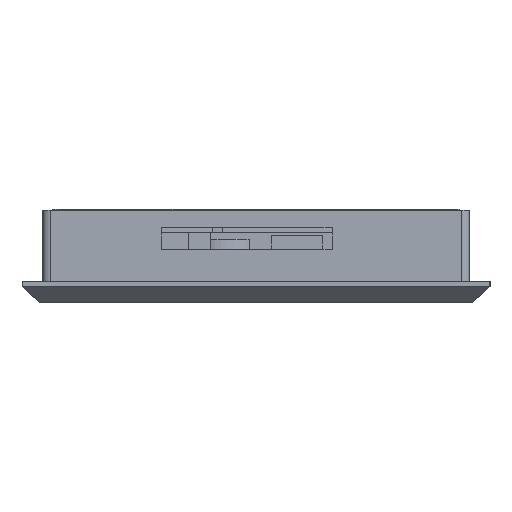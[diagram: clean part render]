
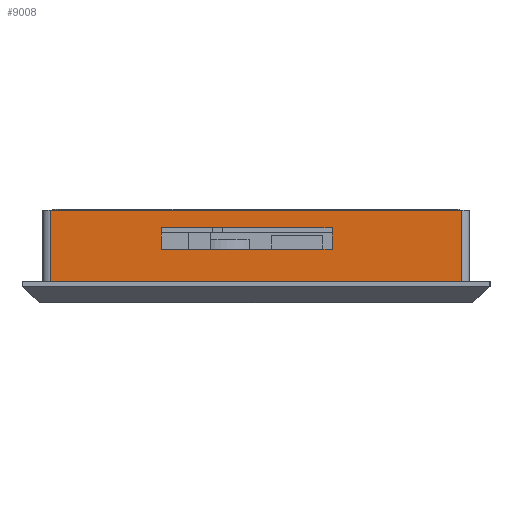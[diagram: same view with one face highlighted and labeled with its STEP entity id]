
A CAD part, left-side view. The second image highlights one B-rep face of the part: STEP entity #9008.
In plain terms, the highlighted planar face has unit normal (-1, 0, 0).
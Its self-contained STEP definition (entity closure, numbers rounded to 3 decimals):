
#9008=ADVANCED_FACE('',(#13447,#13448),#11344,.T.);
#11344=PLANE('',#45564);
#13447=FACE_BOUND('',#13846,.T.);
#13448=FACE_BOUND('',#13847,.T.);
#13846=EDGE_LOOP('',(#17167,#17168,#17169,#17170));
#13847=EDGE_LOOP('',(#17171,#17172,#17173,#17174));
#17167=ORIENTED_EDGE('',*,*,#30941,.F.);
#17168=ORIENTED_EDGE('',*,*,#30942,.F.);
#17169=ORIENTED_EDGE('',*,*,#30936,.T.);
#17170=ORIENTED_EDGE('',*,*,#30939,.F.);
#17171=ORIENTED_EDGE('',*,*,#30972,.T.);
#17172=ORIENTED_EDGE('',*,*,#30839,.T.);
#17173=ORIENTED_EDGE('',*,*,#30974,.T.);
#17174=ORIENTED_EDGE('',*,*,#30975,.F.);
#27322=VERTEX_POINT('',#58718);
#27323=VERTEX_POINT('',#58720);
#27387=VERTEX_POINT('',#58912);
#27388=VERTEX_POINT('',#58914);
#27389=VERTEX_POINT('',#58918);
#27390=VERTEX_POINT('',#58922);
#27414=VERTEX_POINT('',#58988);
#27415=VERTEX_POINT('',#58992);
#30839=EDGE_CURVE('',#27323,#27322,#36044,.T.);
#30936=EDGE_CURVE('',#27388,#27387,#36129,.T.);
#30939=EDGE_CURVE('',#27389,#27387,#36132,.T.);
#30941=EDGE_CURVE('',#27390,#27389,#36134,.T.);
#30942=EDGE_CURVE('',#27388,#27390,#36135,.T.);
#30972=EDGE_CURVE('',#27414,#27323,#36155,.T.);
#30974=EDGE_CURVE('',#27322,#27415,#36156,.T.);
#30975=EDGE_CURVE('',#27414,#27415,#36157,.T.);
#36044=LINE('',#58719,#40775);
#36129=LINE('',#58913,#40860);
#36132=LINE('',#58919,#40863);
#36134=LINE('',#58923,#40865);
#36135=LINE('',#58925,#40866);
#36155=LINE('',#58987,#40886);
#36156=LINE('',#58991,#40887);
#36157=LINE('',#58993,#40888);
#40775=VECTOR('',#48396,1.);
#40860=VECTOR('',#48569,1.);
#40863=VECTOR('',#48574,1.);
#40865=VECTOR('',#48578,1.);
#40866=VECTOR('',#48581,1.);
#40886=VECTOR('',#48639,1.);
#40887=VECTOR('',#48644,1.);
#40888=VECTOR('',#48645,1.);
#45564=AXIS2_PLACEMENT_3D('',#58994,#48646,#48647);
#48396=DIRECTION('',(0.,1.,0.));
#48569=DIRECTION('',(0.,1.,0.));
#48574=DIRECTION('',(0.,0.,-1.));
#48578=DIRECTION('',(0.,1.,0.));
#48581=DIRECTION('',(0.,0.,1.));
#48639=DIRECTION('',(0.,0.,1.));
#48644=DIRECTION('',(0.,0.,-1.));
#48645=DIRECTION('',(0.,1.,0.));
#48646=DIRECTION('',(-1.,0.,0.));
#48647=DIRECTION('',(0.,0.,-1.));
#58718=CARTESIAN_POINT('',(-8.59,5.12,13.2));
#58719=CARTESIAN_POINT('',(-8.59,-100.4,13.2));
#58720=CARTESIAN_POINT('',(-8.59,-110.28,13.2));
#58912=CARTESIAN_POINT('',(-8.59,-25.93,2.2));
#58913=CARTESIAN_POINT('',(-8.59,-100.4,2.2));
#58914=CARTESIAN_POINT('',(-8.59,-73.93,2.2));
#58918=CARTESIAN_POINT('',(-8.59,-25.93,8.2));
#58919=CARTESIAN_POINT('',(-8.59,-25.93,6.));
#58922=CARTESIAN_POINT('',(-8.59,-73.93,8.2));
#58923=CARTESIAN_POINT('',(-8.59,-100.4,8.2));
#58925=CARTESIAN_POINT('',(-8.59,-73.93,6.));
#58987=CARTESIAN_POINT('',(-8.59,-110.28,6.));
#58988=CARTESIAN_POINT('',(-8.59,-110.28,-10.));
#58991=CARTESIAN_POINT('',(-8.59,5.12,6.));
#58992=CARTESIAN_POINT('',(-8.59,5.12,-10.));
#58993=CARTESIAN_POINT('',(-8.59,-100.4,-10.));
#58994=CARTESIAN_POINT('',(-8.59,-100.4,6.));
